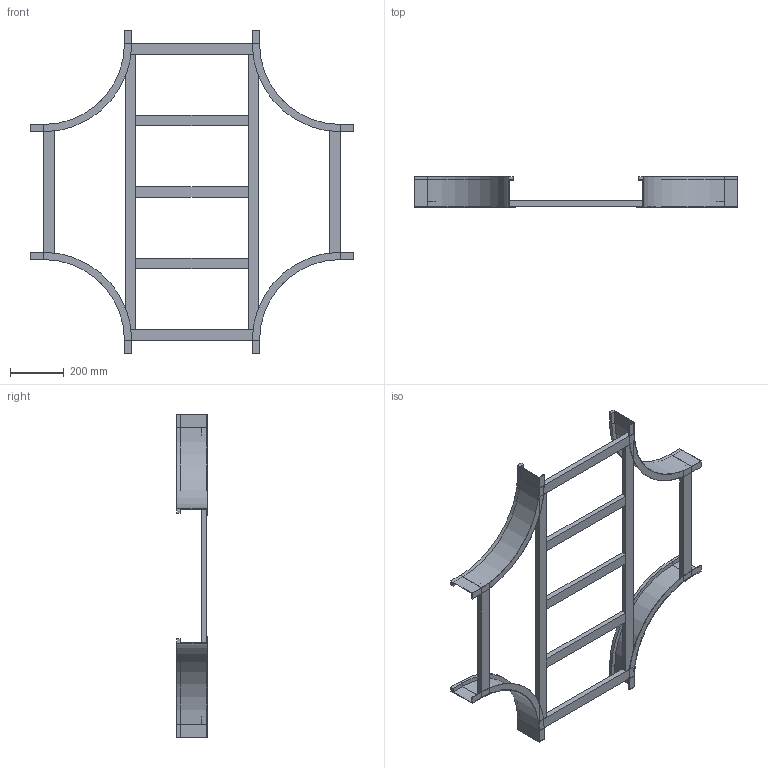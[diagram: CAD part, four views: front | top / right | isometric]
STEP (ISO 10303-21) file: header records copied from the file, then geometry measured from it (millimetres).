
FILE_DESCRIPTION (( 'STEP AP214' ), '1' );
FILE_NAME ('B2_17B3J500.step', '2025-02-21T15:57:21', ( '' ), ( '' ), 'SwSTEP 2.0', 'SolidWorks 2023', '' );
FILE_SCHEMA (( 'AUTOMOTIVE_DESIGN' ));
Length unit declared in the file: millimetre
Products named in the file (5): B2_TRAVERSINO_LONG._R300+500; TRAVERSINO_500; B2_LONGH.INTERNO 90°_H112.5_R300; B2_17B3J500; TRAVERSINO_INTERMEDIO_R300+500
Assembly tree (13 placements, depth 2):
  B2_17B3J500
    B2_LONGH.INTERNO 90°_H112.5_R300  x4
    TRAVERSINO_500  x4
    B2_TRAVERSINO_LONG._R300+500  x2
    TRAVERSINO_INTERMEDIO_R300+500  x3
Bounding box: 1200 x 112.5 x 1200 mm (x, y, z)
Volume: 5351377 mm3; surface area: 1375769.5 mm2
Topology: 13 solids, 13 shells, 158 faces, 332 edges, 200 vertices
Faces by surface type: plane 142, cylinder 16
Entity records: 1362 total; most frequent: DIRECTION 220, CARTESIAN_POINT 208, ORIENTED_EDGE 184, EDGE_CURVE 92, VECTOR 84, LINE 84, AXIS2_PLACEMENT_3D 68, VERTEX_POINT 56
